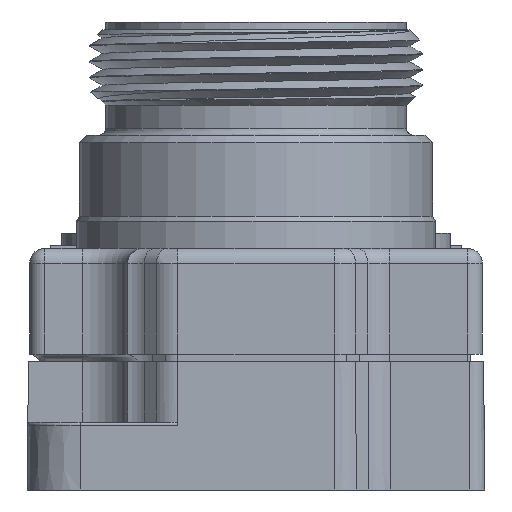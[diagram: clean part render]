
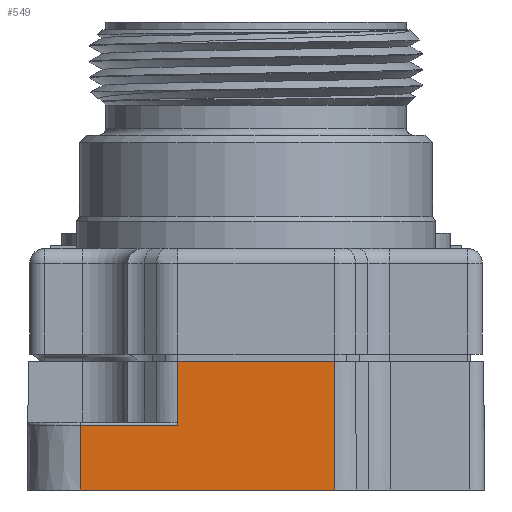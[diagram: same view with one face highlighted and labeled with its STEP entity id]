
A CAD part, front view. The second image highlights one B-rep face of the part: STEP entity #549.
In plain terms, the highlighted planar face has unit normal (0, -1, 0.009).
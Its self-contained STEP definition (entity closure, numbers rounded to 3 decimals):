
#248=CARTESIAN_POINT('',(177.54,100.978,286.868));
#249=VERTEX_POINT('',#248);
#257=CARTESIAN_POINT('',(160.656,100.978,286.868));
#258=VERTEX_POINT('',#257);
#259=CARTESIAN_POINT('',(177.54,100.978,286.868));
#260=DIRECTION('',(-1.0,0.,0.0));
#261=VECTOR('',#260,16.884);
#262=LINE('',#259,#261);
#263=EDGE_CURVE('',#249,#258,#262,.T.);
#485=CARTESIAN_POINT('',(160.656,101.015,291.17));
#486=VERTEX_POINT('',#485);
#501=CARTESIAN_POINT('',(160.656,100.978,286.868));
#502=DIRECTION('',(0.,0.009,1.));
#503=VECTOR('',#502,4.302);
#504=LINE('',#501,#503);
#505=EDGE_CURVE('',#258,#486,#504,.T.);
#510=CARTESIAN_POINT('',(177.54,100.978,286.868));
#511=DIRECTION('',(0.,-1.,0.009));
#512=DIRECTION('',(1.0,0.,0.));
#513=AXIS2_PLACEMENT_3D('',#510,#511,#512);
#514=PLANE('',#513);
#515=CARTESIAN_POINT('',(167.138,101.015,291.17));
#516=VERTEX_POINT('',#515);
#517=CARTESIAN_POINT('',(160.656,101.015,291.17));
#518=DIRECTION('',(1.0,0.0,0.0));
#519=VECTOR('',#518,6.481);
#520=LINE('',#517,#519);
#521=EDGE_CURVE('',#486,#516,#520,.T.);
#522=ORIENTED_EDGE('',*,*,#521,.F.);
#523=ORIENTED_EDGE('',*,*,#505,.F.);
#524=ORIENTED_EDGE('',*,*,#263,.F.);
#525=CARTESIAN_POINT('',(177.54,101.052,295.368));
#526=VERTEX_POINT('',#525);
#527=CARTESIAN_POINT('',(177.54,100.978,286.868));
#528=DIRECTION('',(0.0,0.009,1.));
#529=VECTOR('',#528,8.5);
#530=LINE('',#527,#529);
#531=EDGE_CURVE('',#249,#526,#530,.T.);
#532=ORIENTED_EDGE('',*,*,#531,.T.);
#533=CARTESIAN_POINT('',(167.138,101.052,295.368));
#534=VERTEX_POINT('',#533);
#535=CARTESIAN_POINT('',(177.54,101.052,295.368));
#536=DIRECTION('',(-1.0,0.,0.0));
#537=VECTOR('',#536,10.403);
#538=LINE('',#535,#537);
#539=EDGE_CURVE('',#526,#534,#538,.T.);
#540=ORIENTED_EDGE('',*,*,#539,.T.);
#541=CARTESIAN_POINT('',(167.138,101.052,295.368));
#542=DIRECTION('',(0.0,-0.009,-1.));
#543=VECTOR('',#542,4.198);
#544=LINE('',#541,#543);
#545=EDGE_CURVE('',#534,#516,#544,.T.);
#546=ORIENTED_EDGE('',*,*,#545,.T.);
#547=EDGE_LOOP('',(#522,#523,#524,#532,#540,#546));
#548=FACE_OUTER_BOUND('',#547,.T.);
#549=ADVANCED_FACE('',(#548),#514,.T.);
